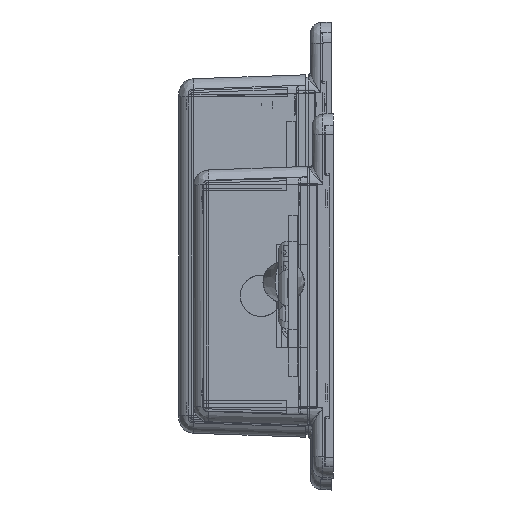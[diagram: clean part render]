
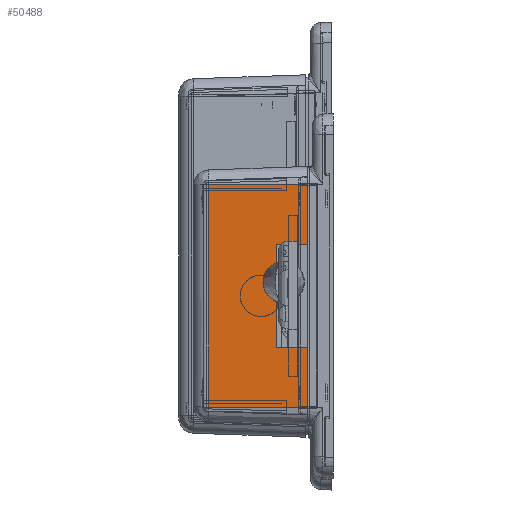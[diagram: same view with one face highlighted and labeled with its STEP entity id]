
A CAD part, left-side view. The second image highlights one B-rep face of the part: STEP entity #50488.
In plain terms, the highlighted planar face has unit normal (-0.999, 0.035, 0) as drawn and (-0.999, 0, 0.035) by its records, which use the part's own axes.
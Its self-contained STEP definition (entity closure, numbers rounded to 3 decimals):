
#4125=PLANE('',#54584);
#6692=FACE_OUTER_BOUND('',#9668,.T.);
#9668=EDGE_LOOP('',(#43394,#43395,#43396,#43397,#43398,#43399,#43400,#43401));
#14313=LINE('',#85606,#19705);
#14316=LINE('',#85612,#19708);
#14320=LINE('',#85619,#19712);
#14321=LINE('',#85622,#19713);
#14322=LINE('',#85624,#19714);
#14323=LINE('',#85626,#19715);
#14324=LINE('',#85628,#19716);
#14325=LINE('',#85629,#19717);
#19705=VECTOR('',#64805,10.);
#19708=VECTOR('',#64810,10.);
#19712=VECTOR('',#64816,10.);
#19713=VECTOR('',#64819,43.);
#19714=VECTOR('',#64820,19.116);
#19715=VECTOR('',#64821,43.);
#19716=VECTOR('',#64822,19.116);
#19717=VECTOR('',#64823,43.);
#24916=VERTEX_POINT('',#85603);
#24917=VERTEX_POINT('',#85605);
#24919=VERTEX_POINT('',#85611);
#24921=VERTEX_POINT('',#85617);
#24922=VERTEX_POINT('',#85621);
#24923=VERTEX_POINT('',#85623);
#24924=VERTEX_POINT('',#85625);
#24925=VERTEX_POINT('',#85627);
#31316=EDGE_CURVE('',#24917,#24916,#14313,.T.);
#31319=EDGE_CURVE('',#24919,#24917,#14316,.T.);
#31323=EDGE_CURVE('',#24916,#24921,#14320,.T.);
#31324=EDGE_CURVE('',#24921,#24922,#14321,.T.);
#31325=EDGE_CURVE('',#24922,#24923,#14322,.T.);
#31326=EDGE_CURVE('',#24924,#24923,#14323,.T.);
#31327=EDGE_CURVE('',#24925,#24924,#14324,.T.);
#31328=EDGE_CURVE('',#24925,#24919,#14325,.T.);
#43394=ORIENTED_EDGE('',*,*,#31323,.T.);
#43395=ORIENTED_EDGE('',*,*,#31324,.T.);
#43396=ORIENTED_EDGE('',*,*,#31325,.T.);
#43397=ORIENTED_EDGE('',*,*,#31326,.F.);
#43398=ORIENTED_EDGE('',*,*,#31327,.F.);
#43399=ORIENTED_EDGE('',*,*,#31328,.T.);
#43400=ORIENTED_EDGE('',*,*,#31319,.T.);
#43401=ORIENTED_EDGE('',*,*,#31316,.T.);
#50488=ADVANCED_FACE('',(#6692),#4125,.T.);
#54584=AXIS2_PLACEMENT_3D('',#85620,#64817,#64818);
#64805=DIRECTION('',(0.,-1.,0.));
#64810=DIRECTION('',(0.035,0.,0.999));
#64816=DIRECTION('',(-0.035,0.,-0.999));
#64817=DIRECTION('center_axis',(-0.999,0.,0.035));
#64818=DIRECTION('ref_axis',(0.,-1.,0.));
#64819=DIRECTION('',(0.,-1.,0.));
#64820=DIRECTION('',(0.035,0.,0.999));
#64821=DIRECTION('',(0.,-1.,0.));
#64822=DIRECTION('',(0.035,0.,0.999));
#64823=DIRECTION('',(0.,-1.,0.));
#85603=CARTESIAN_POINT('',(-24.79,-10.,6.));
#85605=CARTESIAN_POINT('',(-24.79,10.,6.));
#85606=CARTESIAN_POINT('',(-24.79,-5.75,6.));
#85611=CARTESIAN_POINT('',(-25.,10.,0.));
#85612=CARTESIAN_POINT('',(-24.913,10.,2.5));
#85617=CARTESIAN_POINT('',(-25.,-10.,0.));
#85619=CARTESIAN_POINT('',(-24.911,-10.,2.535));
#85620=CARTESIAN_POINT('Origin',(-25.,-21.5,0.));
#85621=CARTESIAN_POINT('',(-25.,-21.5,0.));
#85622=CARTESIAN_POINT('',(-25.,21.5,0.));
#85623=CARTESIAN_POINT('',(-24.333,-21.5,19.105));
#85624=CARTESIAN_POINT('',(-25.,-21.5,0.));
#85625=CARTESIAN_POINT('',(-24.333,21.5,19.105));
#85626=CARTESIAN_POINT('',(-24.333,21.5,19.105));
#85627=CARTESIAN_POINT('',(-25.,21.5,0.));
#85628=CARTESIAN_POINT('',(-25.,21.5,0.));
#85629=CARTESIAN_POINT('',(-25.,21.5,0.));
